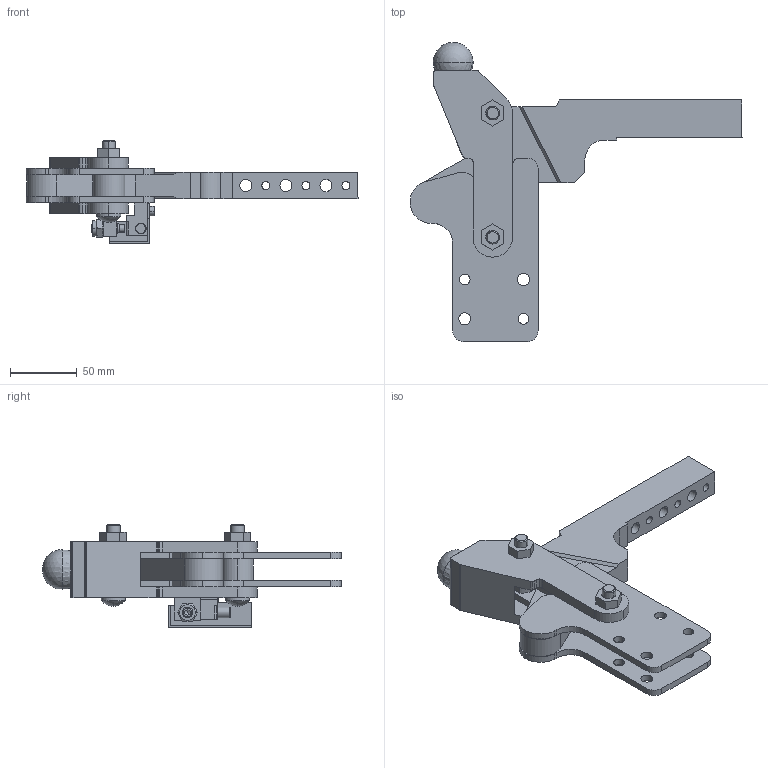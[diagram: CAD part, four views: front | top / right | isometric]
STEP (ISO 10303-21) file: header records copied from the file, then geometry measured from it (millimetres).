
FILE_DESCRIPTION((''),'2;1');
FILE_NAME('S:\Matthew\Step Files (Power Clamps) v.3.14\Hand Clamps\M30-S1\M30-01-136-S1.stp','2007-02-28T14:38:03',('matthew'),(''),'Autodesk Inventor 8','Autodesk Inventor 8','');
FILE_SCHEMA(('AUTOMOTIVE_DESIGN { 1 0 10303 214 1 1 1 1 }'));
Length unit declared in the file: millimetre
Products named in the file (5): M30-01-136-S1; M30-01-136-S11; M30-01-136-S12; M30-01-136-S13; M30-01-136-S14
Assembly tree (4 placements, depth 2):
  M30-01-136-S1
    M30-01-136-S11
    M30-01-136-S12
    M30-01-136-S13
    M30-01-136-S14
Bounding box: 248.74 x 224.14 x 77.65 mm (x, y, z)
Volume: 409602.8 mm3; surface area: 129769.2 mm2
Topology: 4 solids, 6 shells, 320 faces, 874 edges, 572 vertices
Faces by surface type: plane 143, cylinder 137, cone 20, bspline 14, sphere 6
Entity records: 10646 total; most frequent: CARTESIAN_POINT 2195, DIRECTION 1799, ORIENTED_EDGE 1726, EDGE_CURVE 863, AXIS2_PLACEMENT_3D 658, VERTEX_POINT 571, VECTOR 483, LINE 483
